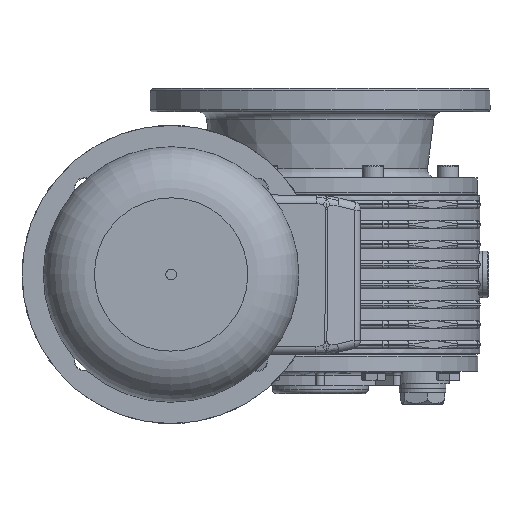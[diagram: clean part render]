
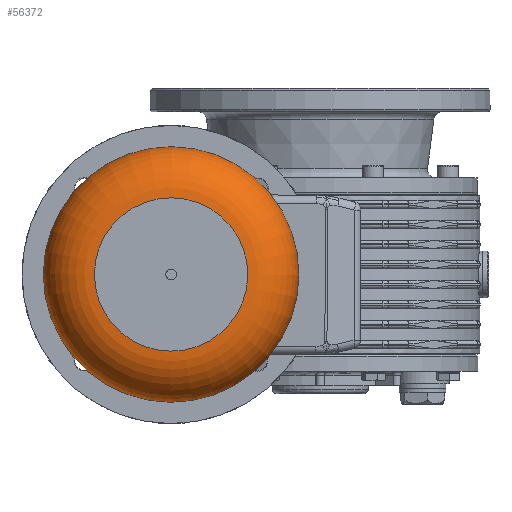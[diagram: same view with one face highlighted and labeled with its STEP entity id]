
A CAD part, left-side view. The second image highlights one B-rep face of the part: STEP entity #56372.
In plain terms, the highlighted toroidal (fillet/blend) face has major radius 36 mm and minor radius 24 mm.
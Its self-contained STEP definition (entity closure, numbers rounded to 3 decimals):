
#56345=CARTESIAN_POINT('',(236.0,0.0,0.0));
#56346=DIRECTION('',(1.0,0.0,0.0));
#56347=DIRECTION('',(0.0,0.0,-1.0));
#56348=AXIS2_PLACEMENT_3D('',#56345,#56346,#56347);
#56349=TOROIDAL_SURFACE('',#56348,36.,24.0);
#56350=CARTESIAN_POINT('',(260.,36.,0.0));
#56351=VERTEX_POINT('',#56350);
#56352=CARTESIAN_POINT('',(260.,0.0,0.0));
#56353=DIRECTION('',(1.0,0.0,0.0));
#56354=DIRECTION('',(0.0,1.0,0.0));
#56355=AXIS2_PLACEMENT_3D('',#56352,#56353,#56354);
#56356=CIRCLE('',#56355,36.);
#56357=EDGE_CURVE('',#56351,#56351,#56356,.T.);
#56358=ORIENTED_EDGE('',*,*,#56357,.F.);
#56359=EDGE_LOOP('',(#56358));
#56360=FACE_OUTER_BOUND('',#56359,.T.);
#56361=CARTESIAN_POINT('',(236.0,60.0,0.0));
#56362=VERTEX_POINT('',#56361);
#56363=CARTESIAN_POINT('',(236.0,0.0,0.0));
#56364=DIRECTION('',(1.0,0.0,0.0));
#56365=DIRECTION('',(0.0,1.0,0.0));
#56366=AXIS2_PLACEMENT_3D('',#56363,#56364,#56365);
#56367=CIRCLE('',#56366,60.0);
#56368=EDGE_CURVE('',#56362,#56362,#56367,.T.);
#56369=ORIENTED_EDGE('',*,*,#56368,.T.);
#56370=EDGE_LOOP('',(#56369));
#56371=FACE_BOUND('',#56370,.T.);
#56372=ADVANCED_FACE('',(#56360,#56371),#56349,.T.);
